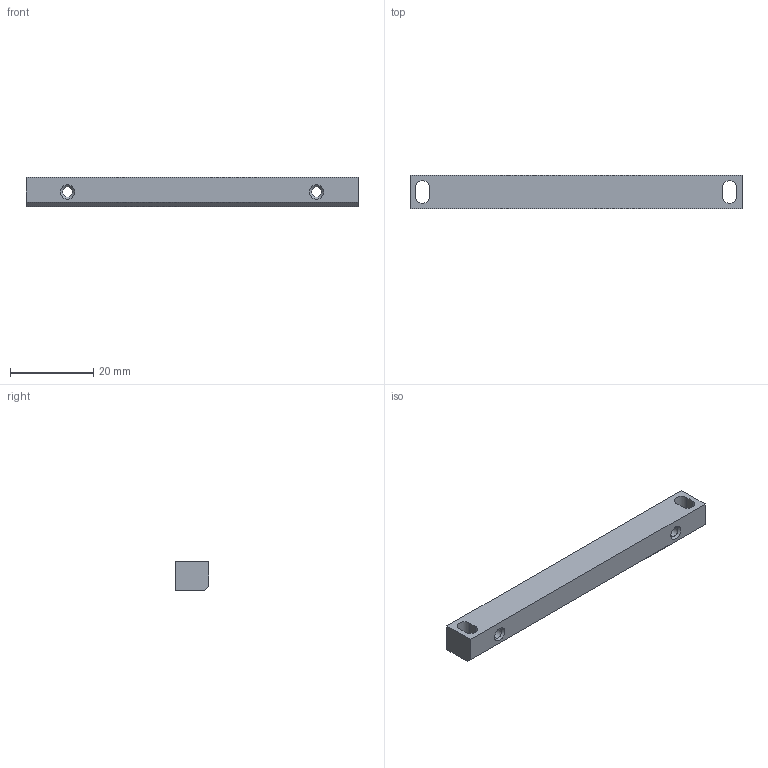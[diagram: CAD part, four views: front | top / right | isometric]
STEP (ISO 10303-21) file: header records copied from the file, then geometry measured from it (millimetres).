
FILE_DESCRIPTION(('STEP AP203'), '1');
FILE_NAME('ÒÏÏÔ1801.01.12.01.004 - Ôèêñàòîð ëåíòû', '', ('UNSPECIFIED'), ('UNSPECIFIED'), 'C3D Converter', 'C3D Toolkit', '');
FILE_SCHEMA(('CONFIG_CONTROL_DESIGN'));
Length unit declared in the file: millimetre
Products named in the file (1): ТППФ1801.01.12.01.004
Bounding box: 80 x 8 x 7 mm (x, y, z)
Volume: 4129.1 mm3; surface area: 2708.3 mm2
Topology: 1 solids, 1 shells, 19 faces, 49 edges, 32 vertices
Faces by surface type: plane 11, cylinder 6, cone 2
Full cylindrical faces by diameter (mm): 2.459 x2
Entity records: 769 total; most frequent: DIRECTION 99, CARTESIAN_POINT 97, ORIENTED_EDGE 90, EDGE_CURVE 45, AXIS2_PLACEMENT_3D 34, VERTEX_POINT 32, EDGE_LOOP 31, LINE 31
